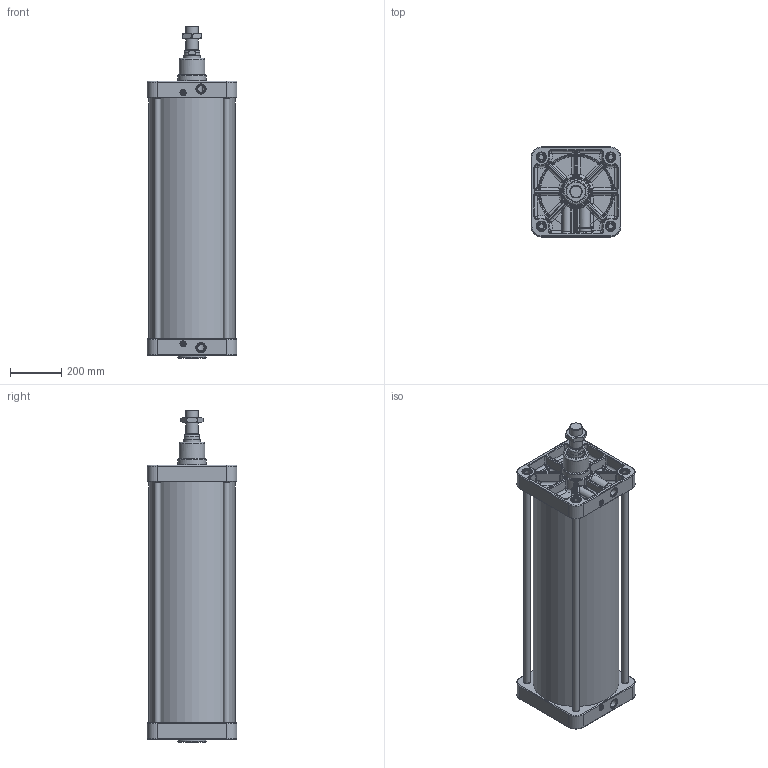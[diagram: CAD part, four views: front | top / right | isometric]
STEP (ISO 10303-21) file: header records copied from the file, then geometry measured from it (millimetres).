
FILE_DESCRIPTION(/* description */ (''),/* implementation_level */ '2;1');
FILE_NAME(/* name */ 'T:\Archivio Inventor\- 00 NUOVI STP PER SITO CON STELO CHE SI MUOVE\SERIE H - U\SERIE UDM\UDM320.---.GS.M\UDM320.850.GS.M.stp',/* time_stamp */ '2020-04-29T16:39:01+02:00',/* author */ ('carlo.corazza'),/* organization */ (''),/* preprocessor_version */ 'ST-DEVELOPER v16.5',/* originating_system */ 'Autodesk Inventor 2017',/* authorisation */ '');
FILE_SCHEMA (('AUTOMOTIVE_DESIGN { 1 0 10303 214 3 1 1 }'));
Length unit declared in the file: millimetre
Products named in the file (7): UDM320.850.GS.M; TP; STELO-850; TA; CORPO-850; TIRANTE-850; 29.2048.000.0
Assembly tree (9 placements, depth 2):
  UDM320.850.GS.M
    TP
    STELO-850
    TA
    TIRANTE-850  x4
    CORPO-850
    29.2048.000.0
Bounding box: 350 x 350 x 1296 mm (x, y, z)
Volume: 22363612.5 mm3; surface area: 3654744.6 mm2
Topology: 9 solids, 16 shells, 1710 faces, 3937 edges, 2221 vertices
Faces by surface type: cylinder 439, bspline 432, plane 380, torus 252, cone 115, sphere 92
Full cylindrical faces by diameter (mm): 8 x2, 9 x1, 10 x1, 11 x2, 11.2 x2, 12 x2, 12.376 x1, 13.4 x4, 14 x2, 15.8 x4, 16 x6, 20.752 x8, 24 x10, 24.5 x8, 25 x6, 30.291 x2, 36 x9, 37 x8, 40 x2, 44.8 x1, 45.835 x1, 48 x1, 62 x1, 63 x1, 64 x1, 64.293 x1, 65.8 x1, 73 x1, 75 x3, 100 x1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
Entity records: 64917 total; most frequent: CARTESIAN_POINT 27888, DIRECTION 7314, ORIENTED_EDGE 7088, EDGE_CURVE 3544, AXIS2_PLACEMENT_3D 3113, VERTEX_POINT 2134, EDGE_LOOP 1966, FACE_OUTER_BOUND 1683
